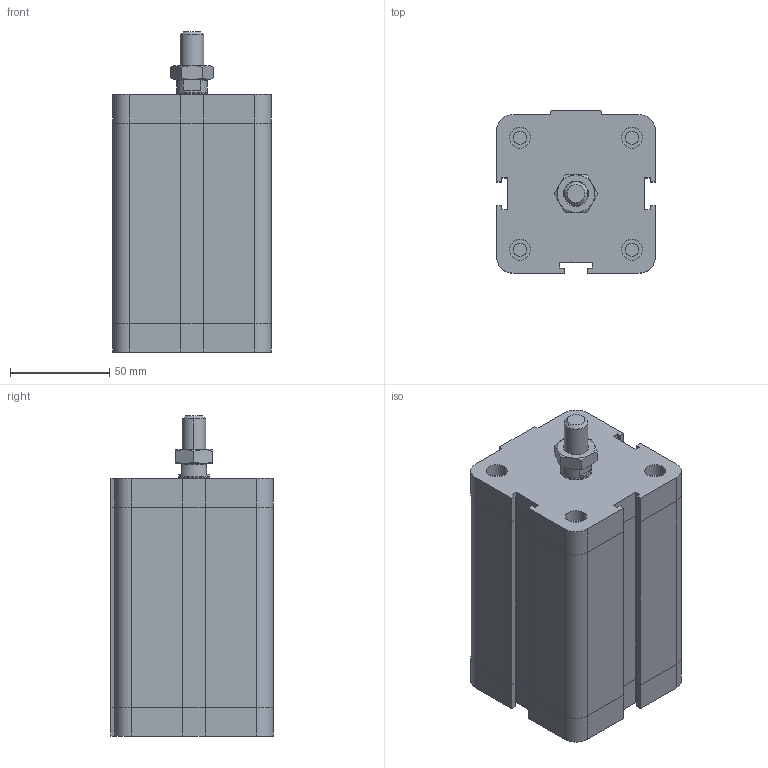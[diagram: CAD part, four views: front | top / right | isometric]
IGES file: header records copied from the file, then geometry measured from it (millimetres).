
Global section: file name: No Iges File Name specified; native system: Autodesk Inventor 2009; preprocessor: AutoDesk Inventor Iges Exporter R2009; author: rivolro1; date: 20081219.160637; units: millimetre
Bounding box: 80 x 82 x 161.5 mm (x, y, z)
Volume: 796820 mm3; surface area: 77120.5 mm2
Topology: 3 solids, 3 shells, 216 faces, 472 edges, 282 vertices
Faces by surface type: plane 121, bspline 37, cylinder 20, cone 20, revolution 18
